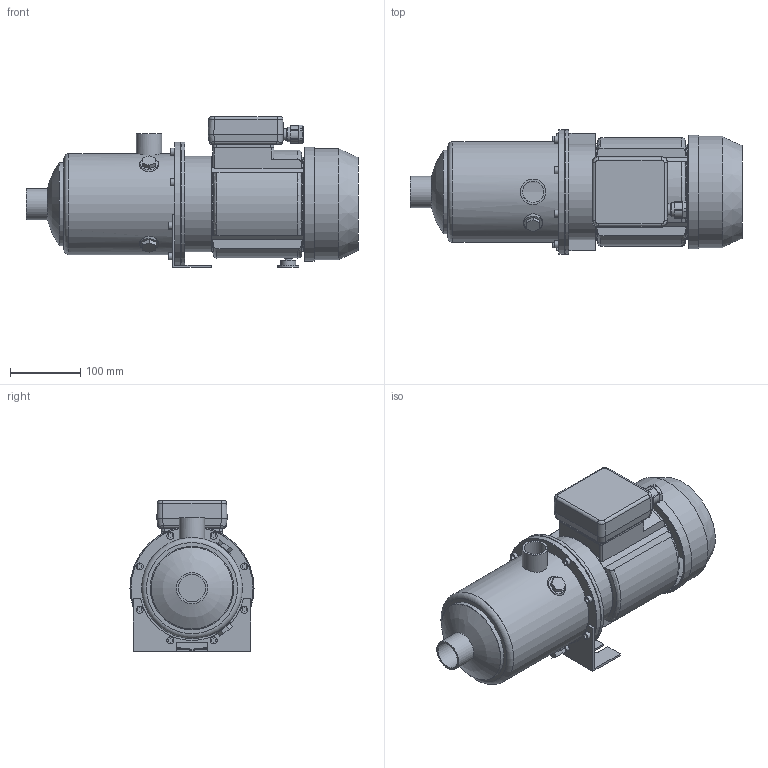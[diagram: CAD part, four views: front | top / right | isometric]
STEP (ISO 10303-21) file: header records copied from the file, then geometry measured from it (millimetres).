
FILE_DESCRIPTION(/* description */ ('Unknown'),/* implementation_level */ '2;1');
FILE_NAME(/* name */ 'MH 3 [6] T6 IE3',/* time_stamp */ '2026-07-10T15:08:13+02:00',/* author */ ('Unknown'),/* organization */ ('Unknown'),/* preprocessor_version */ 'ST-DEVELOPER v20',/* originating_system */ 'Solid Edge',/* authorisation */ 'Unknown');
FILE_SCHEMA (('AUTOMOTIVE_DESIGN {1 0 10303 214 3 1 1}'));
Length unit declared in the file: millimetre
Products named in the file (10): MH 3 [6] T6 IE3; Flangia motore Tonda M80; Corpo MH 3-5 [6]; Motore MEC 80 - T; carcassa MEC 80; Copriventola MEC 80; Ghiera PG13,5 cod. SAV.GHI.20; Basetta MEC 80-90-100 T; Piedino MEC 80 int.90; Staffa 3-5-9 int.90
Assembly tree (9 placements, depth 3):
  MH 3 [6] T6 IE3
    Flangia motore Tonda M80
    Corpo MH 3-5 [6]
    Motore MEC 80 - T
      carcassa MEC 80
      Copriventola MEC 80
      Ghiera PG13,5 cod. SAV.GHI.20
      Basetta MEC 80-90-100 T
    Piedino MEC 80 int.90
    Staffa 3-5-9 int.90
Bounding box: 472.1 x 176.5 x 214.5 mm (x, y, z)
Volume: 2341933.1 mm3; surface area: 604281.7 mm2
Topology: 8 solids, 8 shells, 316 faces, 750 edges, 497 vertices
Faces by surface type: plane 179, cylinder 100, cone 18, torus 9, bspline 8, sphere 2
Full cylindrical faces by diameter (mm): 7 x4, 10 x9, 13 x1, 17 x1, 19.73 x1, 20.4 x1, 21 x1, 30 x1, 30.291 x1, 36 x1, 38.952 x1, 44.5 x1, 116.1 x1, 118.5 x1, 125 x1, 130 x3, 134 x1, 136 x1, 141.1 x1, 143.5 x1, 153 x1, 157 x1, 158 x1, 162 x1, 173.5 x1, 174.1 x1, 176.5 x2
Entity records: 10385 total; most frequent: CARTESIAN_POINT 1889, DIRECTION 1485, ORIENTED_EDGE 1324, EDGE_CURVE 662, AXIS2_PLACEMENT_3D 551, VERTEX_POINT 468, EDGE_LOOP 432, FACE_BOUND 432
